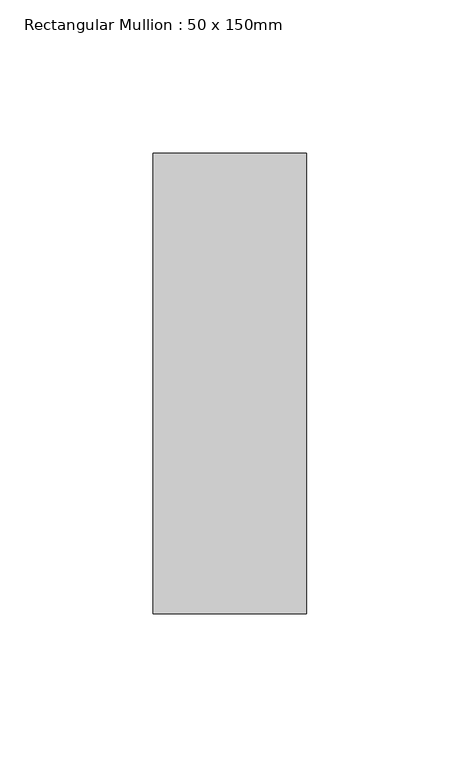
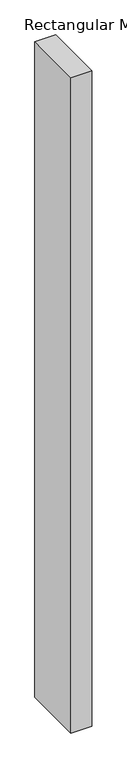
"""IFC4 building model written with IfcOpenShell, lengths in millimetres: member geometry, Rectangular Mullion : 50 x 150mm."""

from ifc_helpers import new_model, si_unit, frame, origin, place, context, project, spatial, polyline, outline, extrude, source, transform, mapped, element, save


def rectangular_mullion_50_x_150mm_e1e9e9c6(model_context):
    return source(origin(), model_context, "Body", "SweptSolid", [
        extrude(outline(polyline([(0.0, 0.0), (-0.0867722, -50.0), (-1668.8393151, -50.0), (-1668.9565768, 0.0), (0.0, 0.0)])), frame((0.0, -75.0, 0.0), z_axis=(0.0, 1.0, 0.0), x_axis=(0.0, 0.0, 1.0)), (0.0, 0.0, 1.0), 150.0),
    ])


if __name__ == "__main__":
    model = new_model("IFC4")
    model_context = context("Model", 3, world=origin())
    ifc_project = project(units=[si_unit("LENGTHUNIT", "METRE", prefix="MILLI")], contexts=[model_context])
    site = spatial("IfcSite", under=ifc_project)
    building = spatial("IfcBuilding", under=site)
    placement = place(None, origin())
    rectangular_mullion_50_x_150mm_shape = rectangular_mullion_50_x_150mm_e1e9e9c6(model_context)
    element("IfcMember", 1, ObjectType="Rectangular Mullion : 50 x 150mm", at=placement, inside=building, context=model_context, shape_type="MappedRepresentation", body=[
        mapped(rectangular_mullion_50_x_150mm_shape, transform((0.0, 0.0, 0.0), x_axis=(1.0, 0.0, 0.0), y_axis=(0.0, 1.0, 0.0), z_axis=(0.0, 0.0, 1.0))),
    ])
    save(model, "model.ifc")
